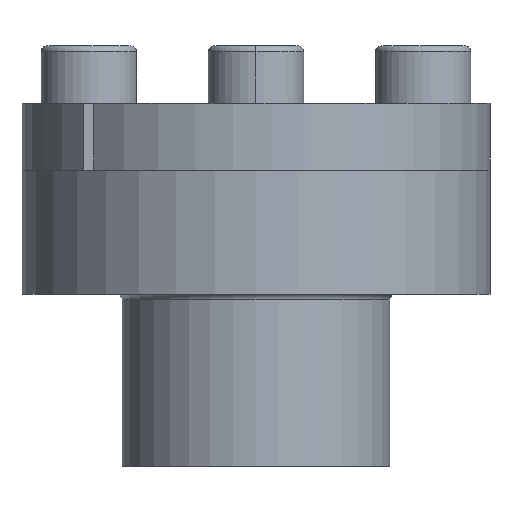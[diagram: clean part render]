
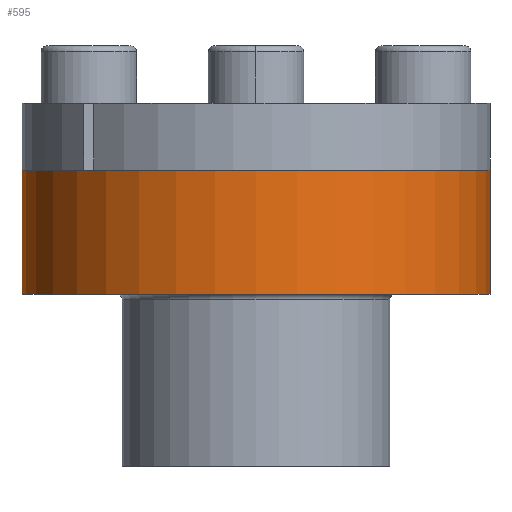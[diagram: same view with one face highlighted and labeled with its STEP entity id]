
A CAD part, front view. The second image highlights one B-rep face of the part: STEP entity #595.
In plain terms, the highlighted cylindrical face has radius 24.5 mm (diameter 49 mm), a partial arc.
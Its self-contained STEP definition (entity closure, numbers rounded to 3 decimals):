
#90 = EDGE_CURVE ( 'NONE', #6186, #1389, #3146, .T. ) ;
#278 = AXIS2_PLACEMENT_3D ( 'NONE', #4327, #650, #4936 ) ;
#595 = ADVANCED_FACE ( 'NONE', ( #888 ), #6461, .T. ) ;
#612 = ORIENTED_EDGE ( 'NONE', *, *, #2267, .T. ) ;
#650 = DIRECTION ( 'NONE',  ( 0., 0., 1. ) ) ;
#732 = CARTESIAN_POINT ( 'NONE',  ( 24.5, 0., -8.022 ) ) ;
#769 = CARTESIAN_POINT ( 'NONE',  ( 24.5, 0., 4.978 ) ) ;
#888 = FACE_OUTER_BOUND ( 'NONE', #7056, .T. ) ;
#1389 = VERTEX_POINT ( 'NONE', #732 ) ;
#1441 = DIRECTION ( 'NONE',  ( 0., 0., -1. ) ) ;
#1504 = VECTOR ( 'NONE', #1441, 1000. ) ;
#1522 = VECTOR ( 'NONE', #4745, 1000. ) ;
#1564 = CARTESIAN_POINT ( 'NONE',  ( 24.5, 0., 4.978 ) ) ;
#2223 = AXIS2_PLACEMENT_3D ( 'NONE', #6511, #2910, #5337 ) ;
#2267 = EDGE_CURVE ( 'NONE', #4063, #5202, #7795, .T. ) ;
#2377 = EDGE_CURVE ( 'NONE', #5202, #1389, #6203, .T. ) ;
#2468 = AXIS2_PLACEMENT_3D ( 'NONE', #3356, #7589, #3970 ) ;
#2534 = EDGE_CURVE ( 'NONE', #4063, #6186, #4882, .T. ) ;
#2910 = DIRECTION ( 'NONE',  ( 0., 0., -1. ) ) ;
#3146 = LINE ( 'NONE', #1564, #1504 ) ;
#3356 = CARTESIAN_POINT ( 'NONE',  ( 0., 0., 4.978 ) ) ;
#3871 = ORIENTED_EDGE ( 'NONE', *, *, #90, .F. ) ;
#3970 = DIRECTION ( 'NONE',  ( 1., 0., 0. ) ) ;
#4063 = VERTEX_POINT ( 'NONE', #6324 ) ;
#4327 = CARTESIAN_POINT ( 'NONE',  ( 0., 0., -8.022 ) ) ;
#4745 = DIRECTION ( 'NONE',  ( 0., 0., -1. ) ) ;
#4882 = CIRCLE ( 'NONE', #2468, 24.5 ) ;
#4936 = DIRECTION ( 'NONE',  ( 1., 0., 0. ) ) ;
#5202 = VERTEX_POINT ( 'NONE', #7720 ) ;
#5337 = DIRECTION ( 'NONE',  ( -1., 0., 0. ) ) ;
#6186 = VERTEX_POINT ( 'NONE', #769 ) ;
#6203 = CIRCLE ( 'NONE', #278, 24.5 ) ;
#6324 = CARTESIAN_POINT ( 'NONE',  ( -24.5, 0., 4.978 ) ) ;
#6461 = CYLINDRICAL_SURFACE ( 'NONE', #2223, 24.5 ) ;
#6511 = CARTESIAN_POINT ( 'NONE',  ( 0., 0., 4.978 ) ) ;
#7056 = EDGE_LOOP ( 'NONE', ( #3871, #7469, #612, #7273 ) ) ;
#7273 = ORIENTED_EDGE ( 'NONE', *, *, #2377, .T. ) ;
#7469 = ORIENTED_EDGE ( 'NONE', *, *, #2534, .F. ) ;
#7589 = DIRECTION ( 'NONE',  ( 0., 0., 1. ) ) ;
#7720 = CARTESIAN_POINT ( 'NONE',  ( -24.5, 0., -8.022 ) ) ;
#7754 = CARTESIAN_POINT ( 'NONE',  ( -24.5, 0., 4.978 ) ) ;
#7795 = LINE ( 'NONE', #7754, #1522 ) ;
